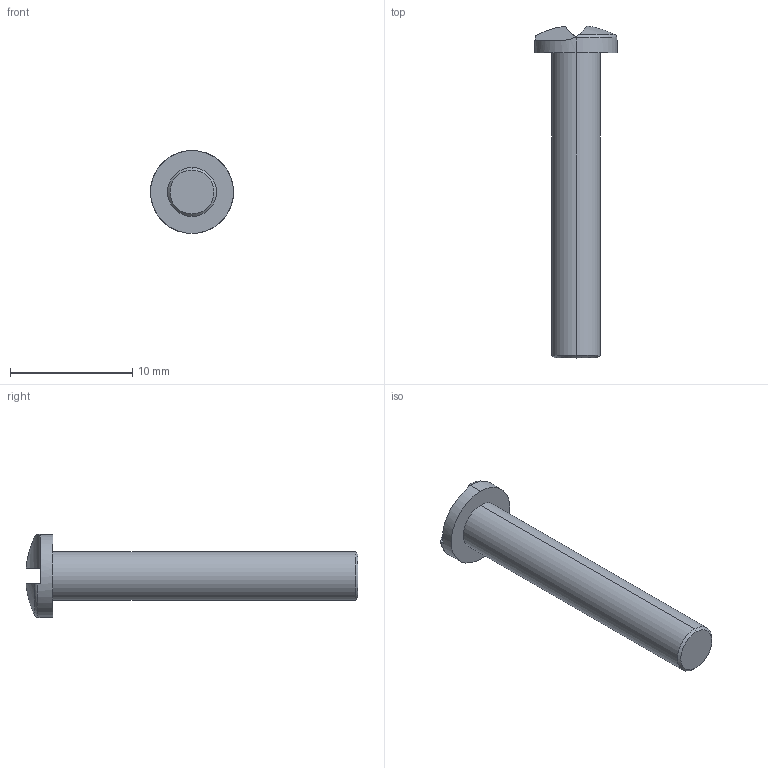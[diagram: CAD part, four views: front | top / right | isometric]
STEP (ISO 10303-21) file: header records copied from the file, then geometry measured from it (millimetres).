
FILE_DESCRIPTION (( 'STEP AP203' ), '1' );
FILE_NAME ('5952.STEP', '2017-09-21T09:13:06', ( 'utente' ), ( 'Microsoft' ), 'SwSTEP 2.0', 'SolidWorks 2014', '' );
FILE_SCHEMA (( 'CONFIG_CONTROL_DESIGN' ));
Length unit declared in the file: millimetre
Products named in the file (1): 5952
Bounding box: 6.8 x 27.19 x 6.8 mm (x, y, z)
Volume: 360.5 mm3; surface area: 418.5 mm2
Topology: 1 solids, 1 shells, 18 faces, 42 edges, 27 vertices
Faces by surface type: cylinder 6, plane 5, torus 3, cone 2, sphere 2
Entity records: 623 total; most frequent: CARTESIAN_POINT 129, DIRECTION 92, ORIENTED_EDGE 84, EDGE_CURVE 42, AXIS2_PLACEMENT_3D 40, VERTEX_POINT 27, CIRCLE 21, EDGE_LOOP 19
